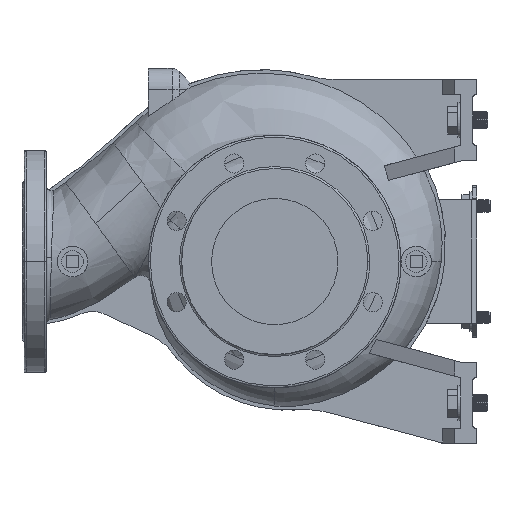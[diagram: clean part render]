
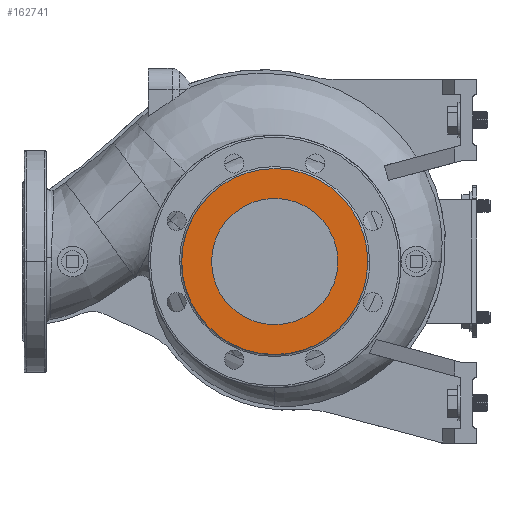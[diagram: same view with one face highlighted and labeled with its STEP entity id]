
A CAD part, left-side view. The second image highlights one B-rep face of the part: STEP entity #162741.
In plain terms, the highlighted planar face has unit normal (-1, 0, 0).
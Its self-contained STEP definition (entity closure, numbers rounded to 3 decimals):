
#2218 = FACE_BOUND ( 'NONE', #172281, .T. ) ;
#3450 = CARTESIAN_POINT ( 'NONE',  ( -125., 43.438, 81.267 ) ) ;
#4383 = CARTESIAN_POINT ( 'NONE',  ( -125., -92., 0. ) ) ;
#4697 = CARTESIAN_POINT ( 'NONE',  ( -125., -35.434, -85.545 ) ) ;
#5005 = DIRECTION ( 'NONE',  ( -1., 0., 0. ) ) ;
#5323 = CARTESIAN_POINT ( 'NONE',  ( -125., 0.001, 92.593 ) ) ;
#5622 = CARTESIAN_POINT ( 'NONE',  ( -125., 18.062, -90.815 ) ) ;
#15673 = ORIENTED_EDGE ( 'NONE', *, *, #149289, .F. ) ;
#17223 = FACE_OUTER_BOUND ( 'NONE', #129446, .T. ) ;
#21558 = CARTESIAN_POINT ( 'NONE',  ( -125., 43.438, -81.267 ) ) ;
#22486 = CARTESIAN_POINT ( 'NONE',  ( -125., 92., -3.009 ) ) ;
#24420 = ORIENTED_EDGE ( 'NONE', *, *, #29129, .F. ) ;
#28400 = VERTEX_POINT ( 'NONE', #156657 ) ;
#29129 = EDGE_CURVE ( 'NONE', #117792, #168602, #53217, .T. ) ;
#33789 = CARTESIAN_POINT ( 'NONE',  ( -125., 91.704, -9.033 ) ) ;
#34583 = ORIENTED_EDGE ( 'NONE', *, *, #68834, .F. ) ;
#36569 = CARTESIAN_POINT ( 'NONE',  ( -125., 32.548, -86.419 ) ) ;
#47840 = CARTESIAN_POINT ( 'NONE',  ( -125., -85.545, -35.434 ) ) ;
#48457 = CARTESIAN_POINT ( 'NONE',  ( -125., 80.624, 44.798 ) ) ;
#49702 = CARTESIAN_POINT ( 'NONE',  ( -125., -18.064, -90.814 ) ) ;
#53217 = B_SPLINE_CURVE_WITH_KNOTS ( 'NONE', 3,
 ( #133839, #60677, #62523, #92529, #76568, #117905, #48457, #149762, #77491, #119758, #63445, #3450, #89737, #176054, #5323, #176967, #148850, #90673, #161049, #178828, #135688, #78419, #132893, #4383 ),
 .UNSPECIFIED., .F., .F.,
 ( 4, 1, 1, 1, 1, 1, 1, 1, 1, 1, 1, 1, 1, 1, 1, 1, 1, 1, 1, 1, 1, 4 ),
 ( 0., 0.009, 0.018, 0.027, 0.036, 0.045, 0.059, 0.073, 0.082, 0.091, 0.1, 0.109, 0.127, 0.145, 0.163, 0.181, 0.199, 0.218, 0.236, 0.254, 0.272, 0.29 ),
 .UNSPECIFIED. ) ;
#60347 = DIRECTION ( 'NONE',  ( 0., 0., -1. ) ) ;
#60677 = CARTESIAN_POINT ( 'NONE',  ( -125., 92., 3.009 ) ) ;
#61919 = CARTESIAN_POINT ( 'NONE',  ( -125., 0.001, -92.593 ) ) ;
#62523 = CARTESIAN_POINT ( 'NONE',  ( -125., 91.704, 9.033 ) ) ;
#63445 = CARTESIAN_POINT ( 'NONE',  ( -125., 51.195, 76.618 ) ) ;
#65577 = CARTESIAN_POINT ( 'NONE',  ( -125., -65.473, -65.473 ) ) ;
#68834 = EDGE_CURVE ( 'NONE', #146587, #28400, #183525, .T. ) ;
#74403 = CARTESIAN_POINT ( 'NONE',  ( -125., 0., 0. ) ) ;
#76568 = CARTESIAN_POINT ( 'NONE',  ( -125., 88.18, 26.749 ) ) ;
#77491 = CARTESIAN_POINT ( 'NONE',  ( -125., 66.273, 64.149 ) ) ;
#77803 = CARTESIAN_POINT ( 'NONE',  ( -125., 51.195, -76.618 ) ) ;
#78419 = CARTESIAN_POINT ( 'NONE',  ( -125., -90.814, 18.064 ) ) ;
#88312 = DIRECTION ( 'NONE',  ( 0., 0., 1. ) ) ;
#89737 = CARTESIAN_POINT ( 'NONE',  ( -125., 32.548, 86.419 ) ) ;
#90673 = CARTESIAN_POINT ( 'NONE',  ( -125., -51.442, 76.988 ) ) ;
#90988 = CARTESIAN_POINT ( 'NONE',  ( -125., 92., 0. ) ) ;
#92529 = CARTESIAN_POINT ( 'NONE',  ( -125., 90.377, 17.977 ) ) ;
#93764 = CARTESIAN_POINT ( 'NONE',  ( -125., 88.18, -26.749 ) ) ;
#95913 = CIRCLE ( 'NONE', #149899, 62.5 ) ;
#95922 = EDGE_CURVE ( 'NONE', #28400, #146587, #95913, .T. ) ;
#103313 = DIRECTION ( 'NONE',  ( -1., 0., 0. ) ) ;
#105052 = CARTESIAN_POINT ( 'NONE',  ( -125., 74.163, -55.003 ) ) ;
#105988 = CARTESIAN_POINT ( 'NONE',  ( -125., -76.988, -51.442 ) ) ;
#111504 = AXIS2_PLACEMENT_3D ( 'NONE', #129794, #172948, #60347 ) ;
#116441 = ORIENTED_EDGE ( 'NONE', *, *, #95922, .F. ) ;
#117792 = VERTEX_POINT ( 'NONE', #120859 ) ;
#117905 = CARTESIAN_POINT ( 'NONE',  ( -125., 85.133, 35.264 ) ) ;
#119152 = CARTESIAN_POINT ( 'NONE',  ( -125., 58.458, -71.231 ) ) ;
#119758 = CARTESIAN_POINT ( 'NONE',  ( -125., 58.458, 71.231 ) ) ;
#120859 = CARTESIAN_POINT ( 'NONE',  ( -125., 92., 0. ) ) ;
#122832 = CARTESIAN_POINT ( 'NONE',  ( -125., -92., 0. ) ) ;
#127001 = CARTESIAN_POINT ( 'NONE',  ( -125., -92., 0. ) ) ;
#129446 = EDGE_LOOP ( 'NONE', ( #24420, #15673 ) ) ;
#129702 = AXIS2_PLACEMENT_3D ( 'NONE', #74403, #5005, #133513 ) ;
#129794 = CARTESIAN_POINT ( 'NONE',  ( -125., -93.104, 93.203 ) ) ;
#130729 = PLANE ( 'NONE',  #111504 ) ;
#132893 = CARTESIAN_POINT ( 'NONE',  ( -125., -92., 6.021 ) ) ;
#133203 = CARTESIAN_POINT ( 'NONE',  ( -125., -90.814, -18.064 ) ) ;
#133513 = DIRECTION ( 'NONE',  ( 0., 0., 1. ) ) ;
#133839 = CARTESIAN_POINT ( 'NONE',  ( -125., 92., 0. ) ) ;
#135063 = CARTESIAN_POINT ( 'NONE',  ( -125., -92., -6.021 ) ) ;
#135688 = CARTESIAN_POINT ( 'NONE',  ( -125., -85.545, 35.434 ) ) ;
#136003 = CARTESIAN_POINT ( 'NONE',  ( -125., -51.442, -76.988 ) ) ;
#141292 = B_SPLINE_CURVE_WITH_KNOTS ( 'NONE', 3,
 ( #122832, #135063, #133203, #47840, #105988, #65577, #136003, #4697, #49702, #61919, #5622, #36569, #21558, #77803, #119152, #151917, #105052, #162279, #150989, #93764, #180033, #33789, #22486, #90988 ),
 .UNSPECIFIED., .F., .F.,
 ( 4, 1, 1, 1, 1, 1, 1, 1, 1, 1, 1, 1, 1, 1, 1, 1, 1, 1, 1, 1, 1, 4 ),
 ( 0., 0.018, 0.036, 0.054, 0.072, 0.091, 0.109, 0.127, 0.145, 0.163, 0.181, 0.19, 0.199, 0.208, 0.217, 0.231, 0.244, 0.254, 0.263, 0.272, 0.281, 0.29 ),
 .UNSPECIFIED. ) ;
#146456 = CARTESIAN_POINT ( 'NONE',  ( -125., 0., 0. ) ) ;
#146587 = VERTEX_POINT ( 'NONE', #179373 ) ;
#148850 = CARTESIAN_POINT ( 'NONE',  ( -125., -35.434, 85.545 ) ) ;
#149289 = EDGE_CURVE ( 'NONE', #168602, #117792, #141292, .T. ) ;
#149762 = CARTESIAN_POINT ( 'NONE',  ( -125., 74.163, 55.003 ) ) ;
#149899 = AXIS2_PLACEMENT_3D ( 'NONE', #146456, #103313, #88312 ) ;
#150989 = CARTESIAN_POINT ( 'NONE',  ( -125., 85.133, -35.264 ) ) ;
#151917 = CARTESIAN_POINT ( 'NONE',  ( -125., 66.273, -64.149 ) ) ;
#156657 = CARTESIAN_POINT ( 'NONE',  ( -125., 0., -62.5 ) ) ;
#161049 = CARTESIAN_POINT ( 'NONE',  ( -125., -65.473, 65.473 ) ) ;
#162279 = CARTESIAN_POINT ( 'NONE',  ( -125., 80.624, -44.798 ) ) ;
#162741 = ADVANCED_FACE ( 'NONE', ( #2218, #17223 ), #130729, .F. ) ;
#168602 = VERTEX_POINT ( 'NONE', #127001 ) ;
#172281 = EDGE_LOOP ( 'NONE', ( #34583, #116441 ) ) ;
#172948 = DIRECTION ( 'NONE',  ( 1., 0., 0. ) ) ;
#176054 = CARTESIAN_POINT ( 'NONE',  ( -125., 18.062, 90.815 ) ) ;
#176967 = CARTESIAN_POINT ( 'NONE',  ( -125., -18.064, 90.814 ) ) ;
#178828 = CARTESIAN_POINT ( 'NONE',  ( -125., -76.988, 51.442 ) ) ;
#179373 = CARTESIAN_POINT ( 'NONE',  ( -125., 0., 62.5 ) ) ;
#180033 = CARTESIAN_POINT ( 'NONE',  ( -125., 90.377, -17.977 ) ) ;
#183525 = CIRCLE ( 'NONE', #129702, 62.5 ) ;
